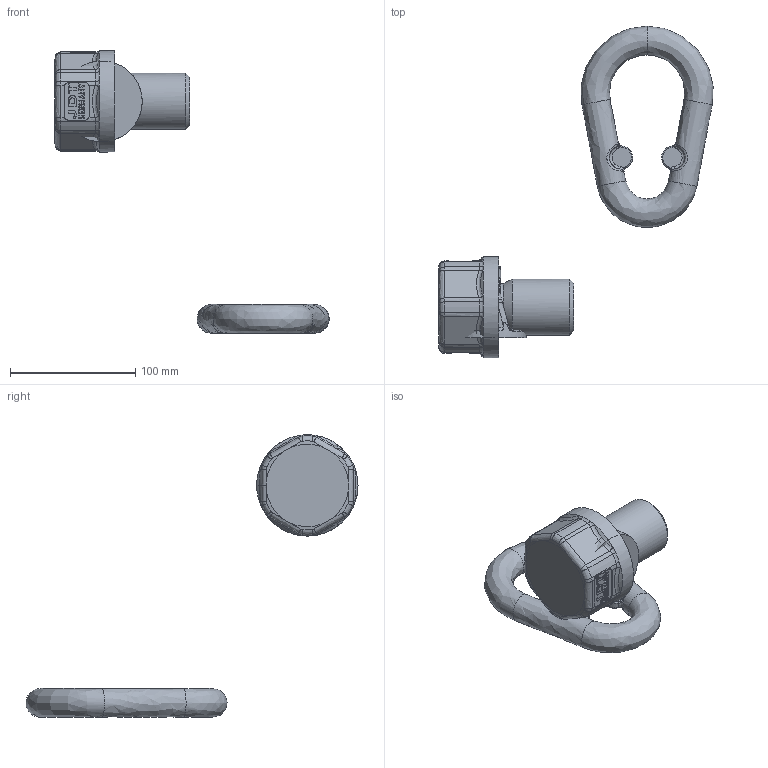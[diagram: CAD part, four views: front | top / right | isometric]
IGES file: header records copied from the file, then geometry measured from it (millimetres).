
Global section: file name: C:\IDEAS\IDEAS-DATEN\Temp\TP12_M45x60_senkrecht.igs; preprocessor: I-DEAS 3D IGES Translator 11; date: 20090715.114407; units: millimetre
Bounding box: 219.29 x 265.48 x 225.86 mm (x, y, z)
Volume: 1078202.3 mm3; surface area: 143882.7 mm2
Topology: 6 solids, 6 shells, 1334 faces, 3336 edges, 2010 vertices
Faces by surface type: bspline 1334
